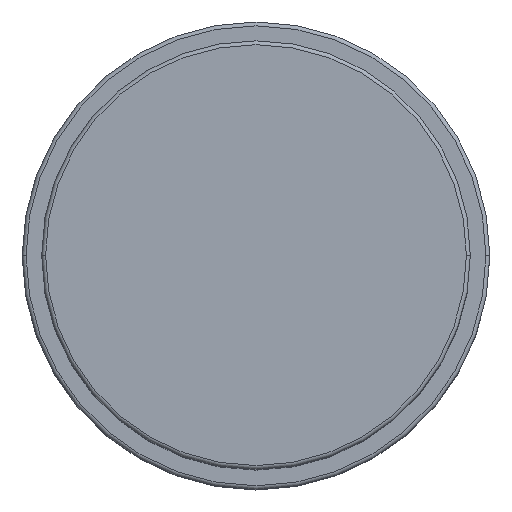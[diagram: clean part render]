
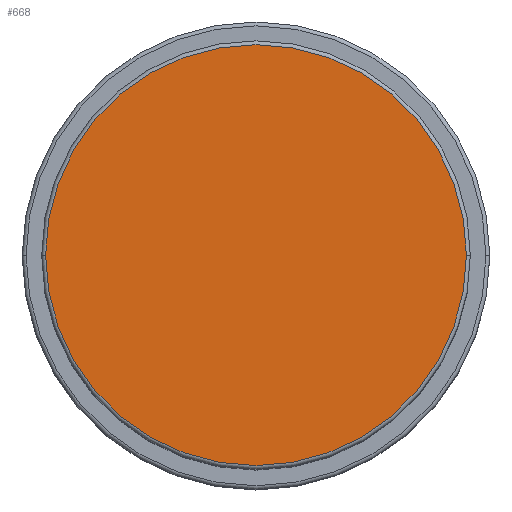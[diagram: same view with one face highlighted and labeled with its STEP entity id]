
A CAD part, top view. The second image highlights one B-rep face of the part: STEP entity #668.
In plain terms, the highlighted planar face has unit normal (0, 0, 1).
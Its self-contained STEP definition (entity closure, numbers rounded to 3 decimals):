
#10 = DIRECTION ( 'NONE',  ( 1., 0., 0. ) ) ;
#57 = AXIS2_PLACEMENT_3D ( 'NONE', #782, #1149, #10 ) ;
#115 = CIRCLE ( 'NONE', #961, 27. ) ;
#204 = VERTEX_POINT ( 'NONE', #794 ) ;
#248 = CARTESIAN_POINT ( 'NONE',  ( 0., 0., 76. ) ) ;
#264 = DIRECTION ( 'NONE',  ( 0., 0., 1. ) ) ;
#307 = ORIENTED_EDGE ( 'NONE', *, *, #1265, .T. ) ;
#472 = VERTEX_POINT ( 'NONE', #1329 ) ;
#482 = FACE_OUTER_BOUND ( 'NONE', #1140, .T. ) ;
#508 = DIRECTION ( 'NONE',  ( 1., 0., 0. ) ) ;
#519 = DIRECTION ( 'NONE',  ( 0., 0., 1. ) ) ;
#614 = CIRCLE ( 'NONE', #1433, 27. ) ;
#668 = ADVANCED_FACE ( 'NONE', ( #482 ), #1022, .T. ) ;
#782 = CARTESIAN_POINT ( 'NONE',  ( 0., 0., 76. ) ) ;
#794 = CARTESIAN_POINT ( 'NONE',  ( -27., 0., 76. ) ) ;
#895 = ORIENTED_EDGE ( 'NONE', *, *, #1607, .T. ) ;
#961 = AXIS2_PLACEMENT_3D ( 'NONE', #1291, #264, #1410 ) ;
#1022 = PLANE ( 'NONE',  #57 ) ;
#1140 = EDGE_LOOP ( 'NONE', ( #895, #307 ) ) ;
#1149 = DIRECTION ( 'NONE',  ( 0., 0., 1. ) ) ;
#1265 = EDGE_CURVE ( 'NONE', #204, #472, #115, .T. ) ;
#1291 = CARTESIAN_POINT ( 'NONE',  ( 0., 0., 76. ) ) ;
#1329 = CARTESIAN_POINT ( 'NONE',  ( 27., 0., 76. ) ) ;
#1410 = DIRECTION ( 'NONE',  ( 1., 0., 0. ) ) ;
#1433 = AXIS2_PLACEMENT_3D ( 'NONE', #248, #519, #508 ) ;
#1607 = EDGE_CURVE ( 'NONE', #472, #204, #614, .T. ) ;
